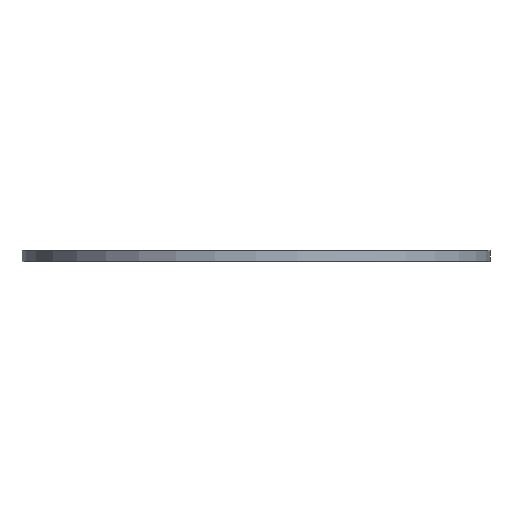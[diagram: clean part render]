
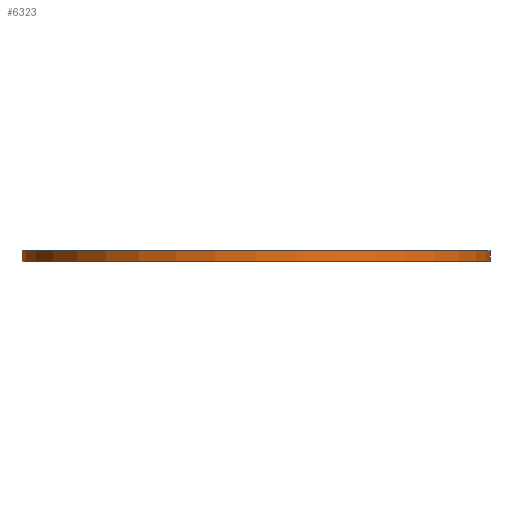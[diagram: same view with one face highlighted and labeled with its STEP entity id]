
A CAD part, front view. The second image highlights one B-rep face of the part: STEP entity #6323.
In plain terms, the highlighted cylindrical face has radius 160 mm (diameter 320 mm), a partial arc.
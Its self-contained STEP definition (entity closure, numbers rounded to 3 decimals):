
#180 = EDGE_CURVE ( 'NONE', #13469, #14695, #8570, .T. ) ;
#413 = EDGE_CURVE ( 'NONE', #13469, #1458, #12170, .T. ) ;
#446 = CYLINDRICAL_SURFACE ( 'NONE', #4103, 160. ) ;
#910 = DIRECTION ( 'NONE',  ( 0., 0., -1. ) ) ;
#929 = VERTEX_POINT ( 'NONE', #11830 ) ;
#1068 = CARTESIAN_POINT ( 'NONE',  ( 0., 0., 7.7 ) ) ;
#1458 = VERTEX_POINT ( 'NONE', #11807 ) ;
#1677 = DIRECTION ( 'NONE',  ( -1., 0., 0. ) ) ;
#2206 = ORIENTED_EDGE ( 'NONE', *, *, #413, .F. ) ;
#2545 = CARTESIAN_POINT ( 'NONE',  ( -160., 0., 8. ) ) ;
#2697 = EDGE_CURVE ( 'NONE', #14695, #929, #12034, .T. ) ;
#2986 = VECTOR ( 'NONE', #4068, 1000. ) ;
#4068 = DIRECTION ( 'NONE',  ( 0., 0., -1. ) ) ;
#4103 = AXIS2_PLACEMENT_3D ( 'NONE', #5146, #13344, #1677 ) ;
#5146 = CARTESIAN_POINT ( 'NONE',  ( 0., 0., 8. ) ) ;
#5258 = DIRECTION ( 'NONE',  ( 1., 0., 0. ) ) ;
#5301 = CARTESIAN_POINT ( 'NONE',  ( 160., 0., 8. ) ) ;
#5609 = AXIS2_PLACEMENT_3D ( 'NONE', #1068, #910, #5772 ) ;
#5772 = DIRECTION ( 'NONE',  ( 1., 0., 0. ) ) ;
#6323 = ADVANCED_FACE ( 'NONE', ( #8633 ), #446, .T. ) ;
#6345 = ORIENTED_EDGE ( 'NONE', *, *, #2697, .T. ) ;
#7493 = EDGE_CURVE ( 'NONE', #929, #1458, #10080, .T. ) ;
#8570 = CIRCLE ( 'NONE', #5609, 160. ) ;
#8633 = FACE_OUTER_BOUND ( 'NONE', #14932, .T. ) ;
#8740 = CARTESIAN_POINT ( 'NONE',  ( 0., 0., 0.3 ) ) ;
#10080 = CIRCLE ( 'NONE', #14275, 160. ) ;
#10369 = ORIENTED_EDGE ( 'NONE', *, *, #180, .T. ) ;
#10665 = ORIENTED_EDGE ( 'NONE', *, *, #7493, .T. ) ;
#11807 = CARTESIAN_POINT ( 'NONE',  ( 160., 0., 0.3 ) ) ;
#11830 = CARTESIAN_POINT ( 'NONE',  ( -160., 0., 0.3 ) ) ;
#12034 = LINE ( 'NONE', #2545, #13413 ) ;
#12170 = LINE ( 'NONE', #5301, #2986 ) ;
#13270 = DIRECTION ( 'NONE',  ( 0., 0., -1. ) ) ;
#13344 = DIRECTION ( 'NONE',  ( 0., 0., -1. ) ) ;
#13413 = VECTOR ( 'NONE', #13270, 1000. ) ;
#13469 = VERTEX_POINT ( 'NONE', #13972 ) ;
#13773 = CARTESIAN_POINT ( 'NONE',  ( -160., 0., 7.7 ) ) ;
#13972 = CARTESIAN_POINT ( 'NONE',  ( 160., 0., 7.7 ) ) ;
#14275 = AXIS2_PLACEMENT_3D ( 'NONE', #8740, #14446, #5258 ) ;
#14446 = DIRECTION ( 'NONE',  ( 0., 0., 1. ) ) ;
#14695 = VERTEX_POINT ( 'NONE', #13773 ) ;
#14932 = EDGE_LOOP ( 'NONE', ( #2206, #10369, #6345, #10665 ) ) ;
